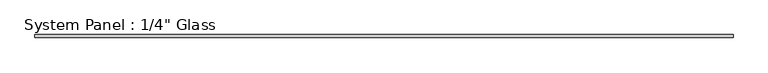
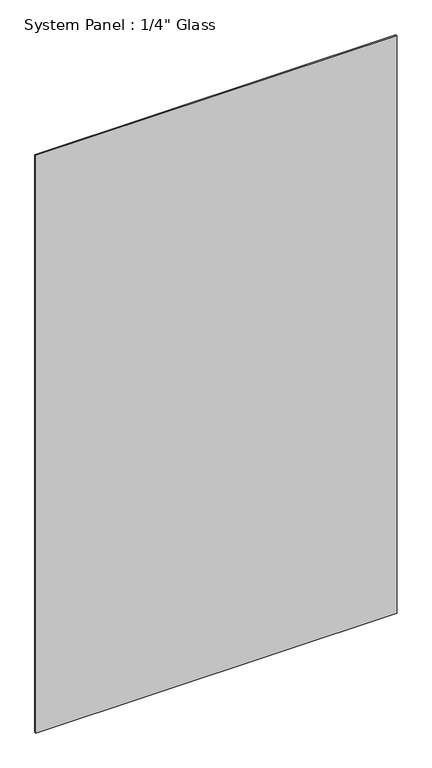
"""IFC4 building model written with IfcOpenShell, lengths in millimetres: plate geometry."""

import ifcopenshell
import ifcopenshell.guid

model = None  # the IFC model being written
_history = None  # IfcOwnerHistory: only IFC2X3 demands one
_inside = {}  # id of a spatial element -> (the spatial element, [elements in it])
_under = {}  # id of a project, library or spatial element -> (it, [spatial elements below it])
_declared = {}  # id of a project -> (the project, [libraries it declares])
_typed = {}  # id of a type object -> (the type object, [elements of that type])
_made_of = {}  # id of a material, layer set ... -> (it, [elements and type objects made of it])


def new_model(schema):
    """Start an empty IFC model of exactly this schema.

    Asked for "IFC4X3", IfcOpenShell would pick the latest addendum, in which some entities
    have other attributes; the version numbers below select the first issue.
    IFC2X3 requires an IfcOwnerHistory on every rooted entity: one is made here for all.
    """
    global model, _history
    if schema == "IFC4X3":
        model = ifcopenshell.file(schema_version=(4, 3, 0, 0))
    else:
        model = ifcopenshell.file(schema=schema)
    _inside.clear()
    _under.clear()
    _declared.clear()
    _typed.clear()
    _made_of.clear()
    _history = None
    if model.schema == "IFC2X3":
        org = make("IfcOrganization", Name="unknown")
        user = make(
            "IfcPersonAndOrganization",
            ThePerson=make("IfcPerson", FamilyName="unknown"),
            TheOrganization=org,
        )
        app = make(
            "IfcApplication",
            ApplicationDeveloper=org,
            Version="unknown",
            ApplicationFullName="unknown",
            ApplicationIdentifier="unknown",
        )
        _history = make(
            "IfcOwnerHistory",
            OwningUser=user,
            OwningApplication=app,
            ChangeAction="ADDED",
            CreationDate=0,
        )
    return model


def make(cls, **values):
    """One entity of the class cls with the attributes given. An attribute that is None is left unset."""
    return model.create_entity(
        cls, **{name: value for name, value in values.items() if value is not None}
    )


def rooted(cls, **values):
    """An entity with a GlobalId (a new one), such as an element, a storey or a relation."""
    return make(cls, GlobalId=ifcopenshell.guid.new(), OwnerHistory=_history, **values)


def si_unit(unit_type, name, prefix=None):
    """IfcSIUnit, for example si_unit("LENGTHUNIT", "METRE", prefix="MILLI")."""
    return make("IfcSIUnit", UnitType=unit_type, Prefix=prefix, Name=name)


def assignment(units):
    """IfcUnitAssignment: the units of a project."""
    return None if units is None else make("IfcUnitAssignment", Units=units)


def point(xyz):
    """IfcCartesianPoint."""
    return None if xyz is None else make("IfcCartesianPoint", Coordinates=xyz)


def direction(xyz):
    """IfcDirection."""
    return None if xyz is None else make("IfcDirection", DirectionRatios=xyz)


def frame(location, z_axis=None, x_axis=None):
    """IfcAxis2Placement3D, a coordinate frame: its origin and axes. An axis left out is left unset."""
    return make(
        "IfcAxis2Placement3D",
        Location=point(location),
        Axis=direction(z_axis),
        RefDirection=direction(x_axis),
    )


def origin():
    """The frame at (0, 0, 0) with its axes left unset."""
    return frame((0.0, 0.0, 0.0))


def origin_with_axes():
    """The frame at (0, 0, 0) with the z axis (0, 0, 1) and the x axis (1, 0, 0) written out."""
    return frame((0.0, 0.0, 0.0), z_axis=(0.0, 0.0, 1.0), x_axis=(1.0, 0.0, 0.0))


def place(relative_to, where):
    """IfcLocalPlacement: puts the frame where relative to a parent placement (None: the world)."""
    return make(
        "IfcLocalPlacement", PlacementRelTo=relative_to, RelativePlacement=where
    )


def context(
    kind, dimensions, precision=None, world=None, true_north=None, identifier=None
):
    """IfcGeometricRepresentationContext, for example the 3D "Model" context."""
    return make(
        "IfcGeometricRepresentationContext",
        ContextIdentifier=identifier,
        ContextType=kind,
        CoordinateSpaceDimension=dimensions,
        Precision=precision,
        WorldCoordinateSystem=world,
        TrueNorth=true_north,
    )


def project(units=None, contexts=None):
    """IfcProject with its units and contexts."""
    return rooted(
        "IfcProject",
        Name="project",
        RepresentationContexts=contexts,
        UnitsInContext=assignment(units),
    )


def spatial(cls, under=None, at=None, **own):
    """A site, building, storey or space (cls), placed at a placement, below another one or the project."""
    s = rooted(cls, ObjectPlacement=at, **own)
    if under is not None:
        _under.setdefault(under.id(), (under, []))[1].append(s)
    return s


def polyline(points):
    """IfcPolyline through the points."""
    return make("IfcPolyline", Points=[point(p) for p in points])


def outline(outer, holes=None, kind="AREA"):
    """IfcArbitraryClosedProfileDef: a profile drawn as a closed curve; with holes, ...WithVoids."""
    if holes is None:
        return make("IfcArbitraryClosedProfileDef", ProfileType=kind, OuterCurve=outer)
    return make(
        "IfcArbitraryProfileDefWithVoids",
        ProfileType=kind,
        OuterCurve=outer,
        InnerCurves=holes,
    )


def extrude(swept, where, along, depth):
    """IfcExtrudedAreaSolid: the profile swept, set in the frame where, extruded along a direction by depth."""
    return make(
        "IfcExtrudedAreaSolid",
        SweptArea=swept,
        Position=where,
        ExtrudedDirection=direction(along),
        Depth=depth,
    )


def shape(context_of_items, identifier, shape_type, items):
    """IfcShapeRepresentation: the items that make up one representation, for example the "Body"."""
    return make(
        "IfcShapeRepresentation",
        ContextOfItems=context_of_items,
        RepresentationIdentifier=identifier,
        RepresentationType=shape_type,
        Items=items,
    )


def source(mapping_origin, context_of_items, identifier, shape_type, items):
    """IfcRepresentationMap: a shape defined once, which mapped items show again and again."""
    return make(
        "IfcRepresentationMap",
        MappingOrigin=mapping_origin,
        MappedRepresentation=shape(context_of_items, identifier, shape_type, items),
    )


def transform(
    local_origin,
    x_axis=None,
    y_axis=None,
    z_axis=None,
    scale=None,
    scale2=None,
    scale3=None,
    uniform=True,
):
    """IfcCartesianTransformationOperator3D, or its non-uniform kind. x_axis, y_axis, z_axis: its Axis1, 2, 3."""
    if uniform:
        return make(
            "IfcCartesianTransformationOperator3D",
            Axis1=direction(x_axis),
            Axis2=direction(y_axis),
            LocalOrigin=point(local_origin),
            Scale=scale,
            Axis3=direction(z_axis),
        )
    return make(
        "IfcCartesianTransformationOperator3DnonUniform",
        Axis1=direction(x_axis),
        Axis2=direction(y_axis),
        LocalOrigin=point(local_origin),
        Scale=scale,
        Axis3=direction(z_axis),
        Scale2=scale2,
        Scale3=scale3,
    )


def mapped(mapping_source, mapping_target):
    """IfcMappedItem: shows the shape of a source again, moved by a transform."""
    return make(
        "IfcMappedItem", MappingSource=mapping_source, MappingTarget=mapping_target
    )


def made_of(thing, what):
    """Note that an element or type object is made of a material, layer set ...; save() writes the relation."""
    if what is not None:
        _made_of.setdefault(what.id(), (what, []))[1].append(thing)
    return thing


def element(
    cls,
    number,
    at=None,
    inside=None,
    cuts=None,
    type_object=None,
    material=None,
    context=None,
    identifier="Body",
    shape_type=None,
    held_by="IfcProductDefinitionShape",
    body=None,
    shapes=None,
    **own,
):
    """One element of the class cls, such as IfcWall. Its Tag is "e" and its number.

    at: its placement. inside: the storey or other place that contains it. cuts: it is an
    opening in that element (IfcRelVoidsElement). A single representation is given by context,
    identifier, shape_type and body (its items); several are given by shapes. held_by: the class
    of the entity that holds the representations. save() writes the other relations.
    """
    e = rooted(cls, Tag="e%d" % number, ObjectPlacement=at, **own)
    if body is not None:
        shapes = [shape(context, identifier, shape_type, body)]
    if shapes is not None:
        e.Representation = make(held_by, Representations=shapes)
    if inside is not None:
        _inside.setdefault(inside.id(), (inside, []))[1].append(e)
    if cuts is not None:
        rooted(
            "IfcRelVoidsElement", RelatingBuildingElement=cuts, RelatedOpeningElement=e
        )
    if type_object is not None:
        _typed.setdefault(type_object.id(), (type_object, []))[1].append(e)
    return made_of(e, material)


def aggregate(whole, parts):
    """IfcRelAggregates: a whole, such as a stair, and the parts it consists of."""
    return rooted("IfcRelAggregates", RelatingObject=whole, RelatedObjects=parts)


def save(model, path):
    """Write the relations noted so far, then the file.

    IfcRelAggregates (storeys below a building ...), IfcRelContainedInSpatialStructure (elements
    in a storey), IfcRelDefinesByType, IfcRelAssociatesMaterial and IfcRelDeclares: one each for
    every whole, place, type object, material and project.
    """
    for whole, parts in _under.values():
        aggregate(whole, parts)
    for where, things in _inside.values():
        rooted(
            "IfcRelContainedInSpatialStructure",
            RelatedElements=things,
            RelatingStructure=where,
        )
    for kind, things in _typed.values():
        rooted("IfcRelDefinesByType", RelatedObjects=things, RelatingType=kind)
    for what, things in _made_of.values():
        rooted("IfcRelAssociatesMaterial", RelatedObjects=things, RelatingMaterial=what)
    for by, libraries in _declared.values():
        rooted("IfcRelDeclares", RelatingContext=by, RelatedDefinitions=libraries)
    model.write(path)


def plate_87d7c655(model_context):
    return source(origin(), model_context, "Body", "SweptSolid", [
        extrude(outline(polyline([(736.3473187, -3.175), (-736.3473187, -3.175), (-736.3473187, 3.175), (736.3473187, 3.175), (736.3473187, -3.175)])), origin_with_axes(), (0.0, 0.0, 1.0), 2489.2),
    ])


if __name__ == "__main__":
    model = new_model("IFC4")
    model_context = context("Model", 3, world=origin())
    ifc_project = project(units=[si_unit("LENGTHUNIT", "METRE", prefix="MILLI")], contexts=[model_context])
    site = spatial("IfcSite", under=ifc_project)
    building = spatial("IfcBuilding", under=site)
    placement = place(None, origin())
    plate_shape = plate_87d7c655(model_context)
    element("IfcPlate", 1, ObjectType="System Panel : 1/4\" Glass", at=placement, inside=building, context=model_context, shape_type="MappedRepresentation", body=[
        mapped(plate_shape, transform((0.0, 0.0, 0.0), x_axis=(1.0, 0.0, 0.0), y_axis=(0.0, 1.0, 0.0), z_axis=(0.0, 0.0, 1.0))),
    ])
    save(model, "model.ifc")
